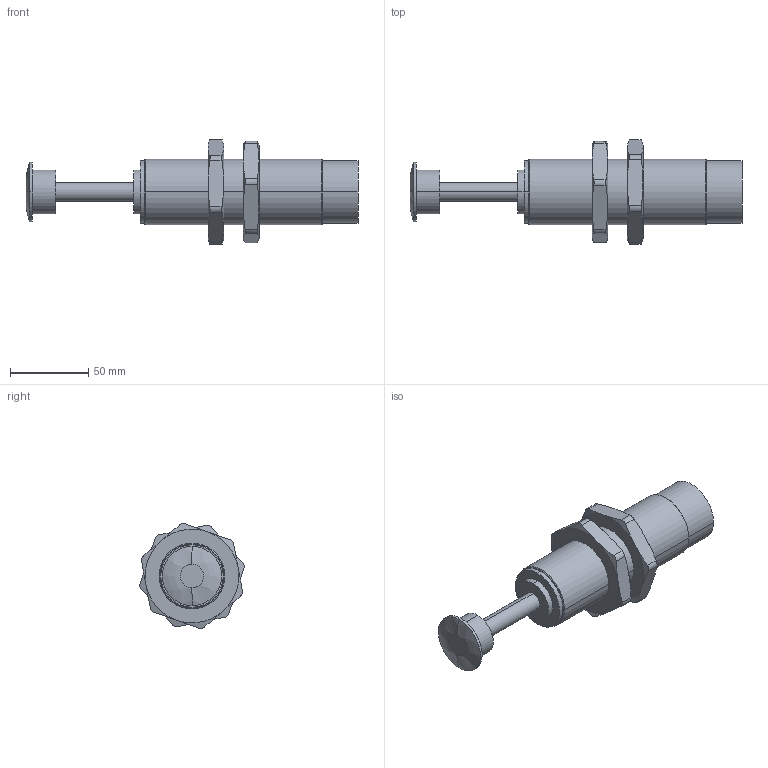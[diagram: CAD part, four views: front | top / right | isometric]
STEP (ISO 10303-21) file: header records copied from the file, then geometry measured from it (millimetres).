
FILE_DESCRIPTION (( 'STEP AP203' ), '1' );
FILE_NAME ('FSA-4250CC.STEP', '2016-03-17T07:51:30', ( 'Sam Lin' ), ( '' ), 'SwSTEP 2.0', 'SolidWorks 2013', '' );
FILE_SCHEMA (( 'CONFIG_CONTROL_DESIGN' ));
Length unit declared in the file: metre
Products named in the file (3): M42x1.5-10mm_1; FSA-4250CC; FSA-4250CC_1
Assembly tree (3 placements, depth 2):
  FSA-4250CC
    FSA-4250CC_1
    M42x1.5-10mm_1  x2
Bounding box: 212.5 x 66.85 x 67.02 mm (x, y, z)
Volume: 245012 mm3; surface area: 40103.8 mm2
Topology: 3 solids, 3 shells, 84 faces, 192 edges, 120 vertices
Faces by surface type: cylinder 30, bspline 26, plane 24, cone 4
Entity records: 2303 total; most frequent: CARTESIAN_POINT 850, ORIENTED_EDGE 252, DIRECTION 212, EDGE_CURVE 126, AXIS2_PLACEMENT_3D 90, VERTEX_POINT 80, EDGE_LOOP 64, FACE_OUTER_BOUND 56
